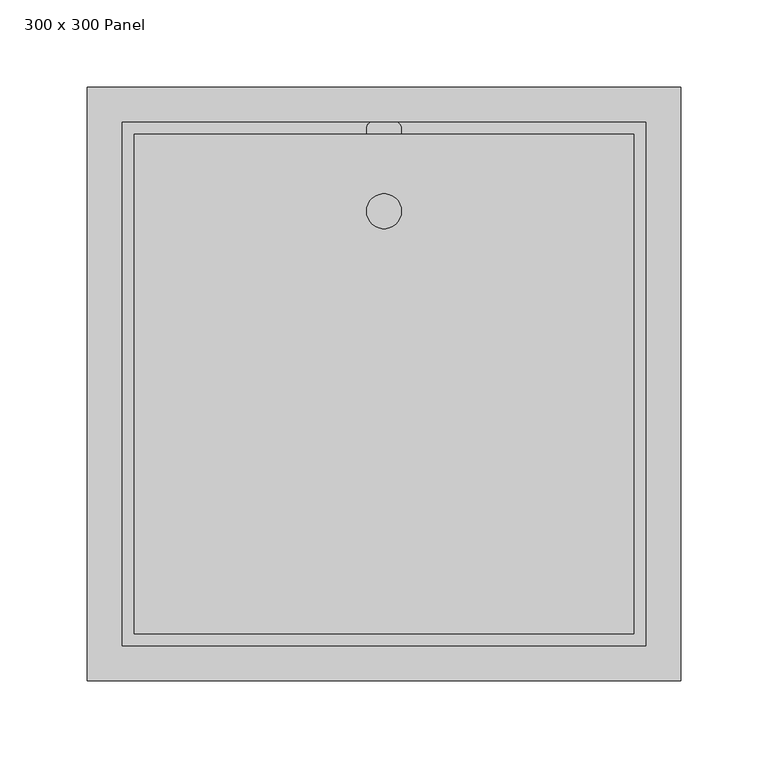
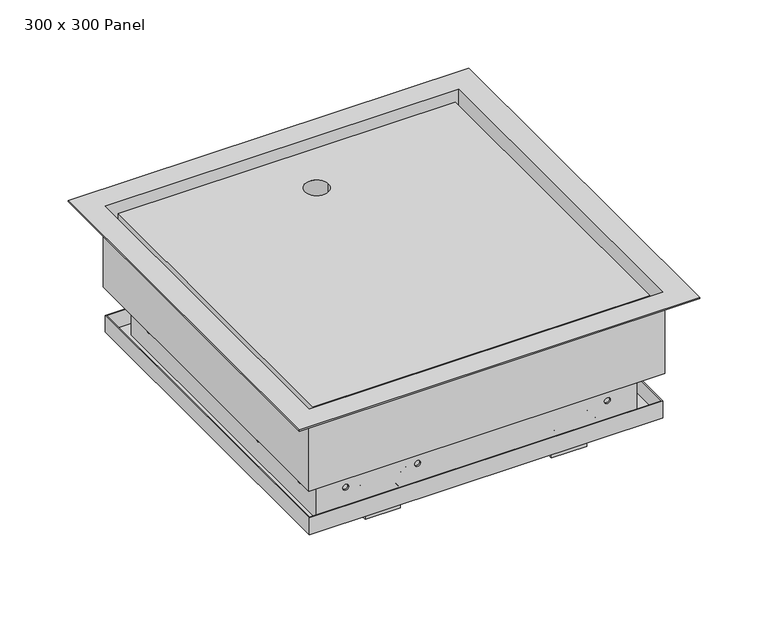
"""IFC4 building model written with IfcOpenShell, lengths in millimetres: proxy geometry, 300 x 300 Fyreshield : 300 x 300 Panel."""

from ifc_helpers import new_model, si_unit, point, frame, frame_2d, origin, place, context, project, spatial, polyline, circle_curve, trimmed, segment, composite_curve, outline, extrude, source, transform, mapped, element, save
from ifc_brep_helpers import plane_surface, revolved_surface, advanced_brep


def proxy_300_x_300_panel_04ea32ab(model_context):
    return source(origin(), model_context, "Body", "SolidModel", [
        extrude(outline(composite_curve([segment(polyline([(119.0, 55.0), (104.0, 55.0)]), True, "CONTINUOUS"), segment(trimmed(circle_curve(frame_2d((79.0, 55.0)), 25.0), [point((104.0, 55.0))], [point((54.0, 55.0))], False, "CARTESIAN"), True, "CONTINUOUS"), segment(polyline([(54.0, 55.0), (39.0, 55.0), (39.0, 75.0), (79.0, 75.0), (119.0, 75.0), (119.0, 55.0)]), True, "CONTINUOUS")], self_intersect=False)), frame((0.0, 0.0, -73.0), z_axis=(0.0, 0.0, 1.0), x_axis=(1.0, 0.0, 0.0)), (0.0, 0.0, 1.0), 2.0),
        extrude(outline(composite_curve([segment(polyline([(-119.0, 55.0), (-119.0, 75.0), (-79.0, 75.0), (-39.0, 75.0), (-39.0, 55.0), (-54.0, 55.0)]), True, "CONTINUOUS"), segment(trimmed(circle_curve(frame_2d((-79.0, 55.0)), 25.0), [point((-54.0, 55.0))], [point((-104.0, 55.0))], False, "CARTESIAN"), True, "CONTINUOUS"), segment(polyline([(-104.0, 55.0), (-119.0, 55.0)]), True, "CONTINUOUS")], self_intersect=False)), frame((0.0, 0.0, -73.0), z_axis=(0.0, 0.0, 1.0), x_axis=(1.0, 0.0, 0.0)), (0.0, 0.0, 1.0), 2.0),
        extrude(outline(composite_curve([segment(trimmed(circle_curve(frame_2d((35.0, -79.3136739)), 5.0), [point((30.0, -79.3136739))], [point((35.0, -74.3136739))], False, "CARTESIAN"), True, "CONTINUOUS"), segment(polyline([(35.0, -74.3136739), (51.5, -72.0), (65.6695499, -72.0), (65.6695499, -77.4449364)]), True, "CONTINUOUS"), segment(trimmed(circle_curve(frame_2d((60.6695499, -77.4449364)), 5.0), [point((65.6695499, -77.4449364))], [point((60.6695499, -82.4449364))], False, "CARTESIAN"), True, "CONTINUOUS"), segment(polyline([(60.6695499, -82.4449364), (42.5, -82.4449364)]), True, "CONTINUOUS"), segment(trimmed(circle_curve(frame_2d((42.5, -84.9449364)), 2.5), [point((42.5, -82.4449364))], [point((40.0, -84.9449364))], True, "CARTESIAN"), True, "CONTINUOUS"), segment(polyline([(40.0, -84.9449364), (40.0, -86.8136739), (30.0, -86.8136739), (30.0, -79.3136739)]), True, "CONTINUOUS")], self_intersect=False)), frame((69.0, 0.0, 0.0), z_axis=(1.0, 0.0, 0.0), x_axis=(0.0, 1.0, 0.0)), (0.0, 0.0, 1.0), 20.0),
        extrude(outline(composite_curve([segment(trimmed(circle_curve(frame_2d((35.0, -79.3136739)), 5.0), [point((30.0, -79.3136739))], [point((35.0, -74.3136739))], False, "CARTESIAN"), True, "CONTINUOUS"), segment(polyline([(35.0, -74.3136739), (51.5, -72.0), (65.6695499, -72.0), (65.6695499, -77.4449364)]), True, "CONTINUOUS"), segment(trimmed(circle_curve(frame_2d((60.6695499, -77.4449364)), 5.0), [point((65.6695499, -77.4449364))], [point((60.6695499, -82.4449364))], False, "CARTESIAN"), True, "CONTINUOUS"), segment(polyline([(60.6695499, -82.4449364), (42.5, -82.4449364)]), True, "CONTINUOUS"), segment(trimmed(circle_curve(frame_2d((42.5, -84.9449364)), 2.5), [point((42.5, -82.4449364))], [point((40.0, -84.9449364))], True, "CARTESIAN"), True, "CONTINUOUS"), segment(polyline([(40.0, -84.9449364), (40.0, -86.8136739), (30.0, -86.8136739), (30.0, -79.3136739)]), True, "CONTINUOUS")], self_intersect=False)), frame((-89.0, 0.0, 0.0), z_axis=(1.0, 0.0, 0.0), x_axis=(0.0, 1.0, 0.0)), (0.0, 0.0, 1.0), 20.0),
        advanced_brep(
        [(93.760434, 15.0, -93.2011546), (93.760434, 20.0, -93.2011546), (98.760434, 20.0, -93.2011546), (98.760434, 15.0, -93.2011546), (98.760434, 15.0, -102.1125194), (98.760434, 20.0, -102.1125194), (98.760434, 20.0, -107.1125194), (98.760434, 15.0, -107.1125194), (93.760434, 20.0, -107.1125194), (93.760434, 15.0, -107.1125194), (93.760434, 20.0, -102.1125194), (93.760434, 15.0, -102.1125194), (64.239566, 15.0, -93.2011546), (64.239566, 20.0, -93.2011546), (59.239566, 20.0, -93.2011546), (59.239566, 15.0, -93.2011546), (59.239566, 15.0, -107.1125194), (59.239566, 20.0, -107.1125194), (59.239566, 20.0, -102.1125194), (59.239566, 15.0, -102.1125194), (64.239566, 15.0, -107.1125194), (64.239566, 20.0, -107.1125194), (64.239566, 15.0, -102.1125194), (64.239566, 20.0, -102.1125194), (89.0, 20.0, -86.8136739), (89.0, 40.0, -86.8136739), (69.0, 40.0, -86.8136739), (69.0, 20.0, -86.8136739), (54.0, 20.0, -86.8136739), (54.0, 15.0, -86.8136739), (104.0, 15.0, -86.8136739), (104.0, 20.0, -86.8136739), (94.0, 20.0, -127.128369), (94.0, 15.0, -127.128369), (64.0, 15.0, -127.128369), (64.0, 20.0, -127.128369), (69.0, 20.0, -127.128369), (69.0, 40.0, -127.128369), (89.0, 40.0, -127.128369), (89.0, 20.0, -127.128369), (94.0, 15.0, -114.5), (96.5, 15.0, -112.0), (104.0, 15.0, -112.0), (54.0, 15.0, -112.0), (61.5, 15.0, -112.0), (64.0, 15.0, -114.5), (64.0, 20.0, -114.5), (61.5, 20.0, -112.0), (54.0, 20.0, -112.0), (104.0, 20.0, -112.0), (96.5, 20.0, -112.0), (94.0, 20.0, -114.5)],
        [
            (0, 1),
            (1, 2, circle_curve(frame((96.260434, 20.0, -93.2011546), z_axis=(0.0, 1.0, 0.0), x_axis=(1.0, 0.0, 0.0)), 2.5)),
            (2, 3),
            (3, 0, circle_curve(frame((96.260434, 15.0, -93.2011546), z_axis=(0.0, -1.0, 0.0), x_axis=(1.0, 0.0, 0.0)), 2.5)),
            (0, 3, circle_curve(frame((96.260434, 15.0, -93.2011546), z_axis=(0.0, -1.0, 0.0), x_axis=(1.0, 0.0, 0.0)), 2.5)),
            (2, 1, circle_curve(frame((96.260434, 20.0, -93.2011546), z_axis=(0.0, 1.0, 0.0), x_axis=(1.0, 0.0, 0.0)), 2.5)),
            (4, 5),
            (5, 6, circle_curve(frame((98.760434, 20.0, -104.6125194), z_axis=(0.0, 1.0, 0.0), x_axis=(1.0, 0.0, 0.0)), 2.5)),
            (6, 7),
            (7, 4, circle_curve(frame((98.760434, 15.0, -104.6125194), z_axis=(0.0, -1.0, 0.0), x_axis=(1.0, 0.0, 0.0)), 2.5)),
            (6, 8),
            (8, 9),
            (9, 7),
            (8, 10, circle_curve(frame((93.760434, 20.0, -104.6125194), z_axis=(0.0, 1.0, 0.0), x_axis=(1.0, 0.0, 0.0)), 2.5)),
            (10, 11),
            (11, 9, circle_curve(frame((93.760434, 15.0, -104.6125194), z_axis=(0.0, -1.0, 0.0), x_axis=(1.0, 0.0, 0.0)), 2.5)),
            (4, 11),
            (10, 5),
            (12, 13),
            (13, 14, circle_curve(frame((61.739566, 20.0, -93.2011546), z_axis=(0.0, 1.0, 0.0), x_axis=(1.0, 0.0, 0.0)), 2.5)),
            (14, 15),
            (15, 12, circle_curve(frame((61.739566, 15.0, -93.2011546), z_axis=(0.0, -1.0, 0.0), x_axis=(1.0, 0.0, 0.0)), 2.5)),
            (12, 15, circle_curve(frame((61.739566, 15.0, -93.2011546), z_axis=(0.0, -1.0, 0.0), x_axis=(1.0, 0.0, 0.0)), 2.5)),
            (14, 13, circle_curve(frame((61.739566, 20.0, -93.2011546), z_axis=(0.0, 1.0, 0.0), x_axis=(1.0, 0.0, 0.0)), 2.5)),
            (16, 17),
            (17, 18, circle_curve(frame((59.239566, 20.0, -104.6125194), z_axis=(0.0, 1.0, 0.0), x_axis=(1.0, 0.0, 0.0)), 2.5)),
            (18, 19),
            (19, 16, circle_curve(frame((59.239566, 15.0, -104.6125194), z_axis=(0.0, -1.0, 0.0), x_axis=(1.0, 0.0, 0.0)), 2.5)),
            (16, 20),
            (20, 21),
            (21, 17),
            (20, 22, circle_curve(frame((64.239566, 15.0, -104.6125194), z_axis=(0.0, -1.0, 0.0), x_axis=(1.0, 0.0, 0.0)), 2.5)),
            (22, 23),
            (23, 21, circle_curve(frame((64.239566, 20.0, -104.6125194), z_axis=(0.0, 1.0, 0.0), x_axis=(1.0, 0.0, 0.0)), 2.5)),
            (18, 23),
            (22, 19),
            (24, 25),
            (25, 26),
            (26, 27),
            (27, 28),
            (28, 29),
            (29, 30),
            (30, 31),
            (31, 24),
            (32, 33),
            (33, 34),
            (34, 35),
            (35, 36),
            (36, 37),
            (37, 38),
            (38, 39),
            (39, 32),
            (33, 40),
            (40, 41, circle_curve(frame((96.5, 15.0, -114.5), z_axis=(0.0, 1.0, 0.0), x_axis=(-1.0, 0.0, 0.0)), 2.5)),
            (41, 42),
            (42, 30),
            (29, 43),
            (43, 44),
            (44, 45, circle_curve(frame((61.5, 15.0, -114.5), z_axis=(0.0, 1.0, 0.0), x_axis=(-1.0, 0.0, 0.0)), 2.5)),
            (45, 34),
            (35, 46),
            (46, 47, circle_curve(frame((61.5, 20.0, -114.5), z_axis=(0.0, -1.0, 0.0), x_axis=(-1.0, 0.0, 0.0)), 2.5)),
            (47, 48),
            (48, 28),
            (27, 36),
            (39, 24),
            (31, 49),
            (49, 50),
            (50, 51, circle_curve(frame((96.5, 20.0, -114.5), z_axis=(0.0, -1.0, 0.0), x_axis=(-1.0, 0.0, 0.0)), 2.5)),
            (51, 32),
            (38, 25),
            (37, 26),
            (45, 46),
            (51, 40),
            (48, 43),
            (44, 47),
            (41, 50),
            (49, 42),
        ],
        [
            revolved_surface(polyline([(98.760434, 15.0, -93.2011546), (98.760434, 20.0, -93.2011546)]), (96.260434, 20.0, -93.2011546), (0.0, -1.0, 0.0)),
            revolved_surface(polyline([(101.260434, 15.0, -104.6125194), (101.260434, 20.0, -104.6125194)]), (98.760434, 20.0, -104.6125194), (0.0, -1.0, 0.0)),
            plane_surface(frame((93.760434, 15.0, -107.1125194), z_axis=(0.0, 0.0, 1.0), x_axis=(0.0, 1.0, 0.0))),
            revolved_surface(polyline([(96.260434, 15.0, -104.6125194), (96.260434, 20.0, -104.6125194)]), (93.760434, 20.0, -104.6125194), (0.0, -1.0, 0.0)),
            plane_surface(frame((98.760434, 15.0, -102.1125194), z_axis=(0.0, 0.0, -1.0), x_axis=(0.0, 1.0, 0.0))),
            revolved_surface(polyline([(64.239566, 15.0, -93.2011546), (64.239566, 20.0, -93.2011546)]), (61.739566, 20.0, -93.2011546), (0.0, -1.0, 0.0)),
            revolved_surface(polyline([(61.739566, 15.0, -104.6125194), (61.739566, 20.0, -104.6125194)]), (59.239566, 20.0, -104.6125194), (0.0, -1.0, 0.0)),
            plane_surface(frame((59.239566, 15.0, -107.1125194), z_axis=(0.0, 0.0, 1.0), x_axis=(0.0, 1.0, 0.0))),
            revolved_surface(polyline([(66.739566, 15.0, -104.6125194), (66.739566, 20.0, -104.6125194)]), (64.239566, 20.0, -104.6125194), (0.0, -1.0, 0.0)),
            plane_surface(frame((64.239566, 15.0, -102.1125194), z_axis=(0.0, 0.0, -1.0), x_axis=(0.0, 1.0, 0.0))),
            plane_surface(frame((-94.0, 15.0, -86.8136739), z_axis=(0.0, 0.0, 1.0), x_axis=(0.0, -1.0, 0.0))),
            plane_surface(frame((-94.0, 15.0, -127.128369), z_axis=(0.0, 0.0, -1.0), x_axis=(0.0, 1.0, 0.0))),
            plane_surface(frame((-94.0, 15.0, -86.8136739), z_axis=(0.0, -1.0, 0.0), x_axis=(0.0, 0.0, -1.0))),
            plane_surface(frame((-64.0, 20.0, -86.8136739), z_axis=(0.0, 1.0, 0.0), x_axis=(0.0, 0.0, -1.0))),
            plane_surface(frame((89.0, 20.0, -86.8136739), z_axis=(1.0, 0.0, 0.0), x_axis=(0.0, 0.0, -1.0))),
            plane_surface(frame((89.0, 40.0, -86.8136739), z_axis=(0.0, 1.0, 0.0), x_axis=(0.0, 0.0, -1.0))),
            plane_surface(frame((69.0, 40.0, -86.8136739), z_axis=(-1.0, 0.0, 0.0), x_axis=(0.0, 0.0, -1.0))),
            plane_surface(frame((64.0, 20.0, -86.8136739), z_axis=(-1.0, 0.0, 0.0), x_axis=(0.0, 0.0, -1.0))),
            plane_surface(frame((94.0, 15.0, -86.8136739), z_axis=(1.0, 0.0, 0.0), x_axis=(0.0, 0.0, -1.0))),
            plane_surface(frame((54.0, 20.0, -112.0), z_axis=(-1.0, 0.0, 0.0), x_axis=(0.0, -1.0, 0.0))),
            revolved_surface(polyline([(59.0, 15.0, -114.5), (59.0, 20.0, -114.5)]), (61.5, 15.0, -114.5), (0.0, -1.0, 0.0)),
            plane_surface(frame((61.5, 20.0, -112.0), z_axis=(0.0, 0.0, -1.0), x_axis=(0.0, -1.0, 0.0))),
            plane_surface(frame((104.0, 20.0, -112.0), z_axis=(0.0, 0.0, -1.0), x_axis=(0.0, -1.0, 0.0))),
            revolved_surface(polyline([(94.0, 15.0, -114.5), (94.0, 20.0, -114.5)]), (96.5, 20.0, -114.5), (0.0, -1.0, 0.0)),
            plane_surface(frame((104.0, 20.0, -86.8136739), z_axis=(1.0, 0.0, 0.0), x_axis=(0.0, -1.0, 0.0))),
        ],
        [
            (0, [[1, 2, 3, 4]]),
            (0, [[-1, 5, -3, 6]]),
            (1, [[7, 8, 9, 10]]),
            (2, [[-9, 11, 12, 13]]),
            (3, [[-12, 14, 15, 16]]),
            (4, [[-7, 17, -15, 18]]),
            (5, [[19, 20, 21, 22]]),
            (5, [[-19, 23, -21, 24]]),
            (6, [[25, 26, 27, 28]]),
            (7, [[-25, 29, 30, 31]]),
            (8, [[-30, 32, 33, 34]]),
            (9, [[-27, 35, -33, 36]]),
            (10, [[37, 38, 39, 40, 41, 42, 43, 44]]),
            (11, [[45, 46, 47, 48, 49, 50, 51, 52]]),
            (12, [[-46, 53, 54, 55, 56, -42, 57, 58, 59, 60], [-4, -5], [-10, -13, -16, -17], [-22, -23], [-28, -36, -32, -29]]),
            (13, [[-48, 61, 62, 63, 64, -40, 65], [-20, -24], [-26, -31, -34, -35]]),
            (13, [[-52, 66, -44, 67, 68, 69, 70], [-2, -6], [-8, -18, -14, -11]]),
            (14, [[-37, -66, -51, 71]]),
            (15, [[-38, -71, -50, 72]]),
            (16, [[-39, -72, -49, -65]]),
            (17, [[-47, -60, 73, -61]]),
            (18, [[-45, -70, 74, -53]]),
            (19, [[-57, -41, -64, 75]]),
            (20, [[-59, 76, -62, -73]]),
            (21, [[-58, -75, -63, -76]]),
            (22, [[-55, 77, -68, 78]]),
            (23, [[-54, -74, -69, -77]]),
            (24, [[-56, -78, -67, -43]]),
        ],
    ),
        advanced_brep(
        [(-69.0, 20.0, -86.8136739), (-69.0, 40.0, -86.8136739), (-89.0, 40.0, -86.8136739), (-89.0, 20.0, -86.8136739), (-104.0, 20.0, -86.8136739), (-104.0, 15.0, -86.8136739), (-54.0, 15.0, -86.8136739), (-54.0, 20.0, -86.8136739), (-94.0, 20.0, -127.128369), (-89.0, 20.0, -127.128369), (-89.0, 40.0, -127.128369), (-69.0, 40.0, -127.128369), (-69.0, 20.0, -127.128369), (-64.0, 20.0, -127.128369), (-64.0, 15.0, -127.128369), (-94.0, 15.0, -127.128369), (-94.0, 15.0, -114.5), (-94.0, 20.0, -114.5), (-64.0, 15.0, -114.5), (-61.5, 15.0, -112.0), (-54.0, 15.0, -112.0), (-104.0, 15.0, -112.0), (-96.5, 15.0, -112.0), (-59.239566, 15.0, -93.2011546), (-64.239566, 15.0, -93.2011546), (-64.239566, 15.0, -102.1125194), (-59.239566, 15.0, -102.1125194), (-59.239566, 15.0, -107.1125194), (-64.239566, 15.0, -107.1125194), (-93.760434, 15.0, -93.2011546), (-98.760434, 15.0, -93.2011546), (-98.760434, 15.0, -107.1125194), (-98.760434, 15.0, -102.1125194), (-93.760434, 15.0, -102.1125194), (-93.760434, 15.0, -107.1125194), (-64.0, 20.0, -114.5), (-96.5, 20.0, -112.0), (-104.0, 20.0, -112.0), (-98.760434, 20.0, -93.2011546), (-93.760434, 20.0, -93.2011546), (-98.760434, 20.0, -102.1125194), (-98.760434, 20.0, -107.1125194), (-93.760434, 20.0, -107.1125194), (-93.760434, 20.0, -102.1125194), (-54.0, 20.0, -112.0), (-61.5, 20.0, -112.0), (-64.239566, 20.0, -93.2011546), (-59.239566, 20.0, -93.2011546), (-59.239566, 20.0, -102.1125194), (-64.239566, 20.0, -102.1125194), (-64.239566, 20.0, -107.1125194), (-59.239566, 20.0, -107.1125194)],
        [
            (0, 1),
            (1, 2),
            (2, 3),
            (3, 4),
            (4, 5),
            (5, 6),
            (6, 7),
            (7, 0),
            (8, 9),
            (9, 10),
            (10, 11),
            (11, 12),
            (12, 13),
            (13, 14),
            (14, 15),
            (15, 8),
            (15, 16),
            (16, 17),
            (17, 8),
            (14, 18),
            (18, 19, circle_curve(frame((-61.5, 15.0, -114.5), z_axis=(0.0, 1.0, 0.0), x_axis=(-1.0, 0.0, 0.0)), 2.5)),
            (19, 20),
            (20, 6),
            (5, 21),
            (21, 22),
            (22, 16, circle_curve(frame((-96.5, 15.0, -114.5), z_axis=(0.0, 1.0, 0.0), x_axis=(-1.0, 0.0, 0.0)), 2.5)),
            (23, 24, circle_curve(frame((-61.739566, 15.0, -93.2011546), z_axis=(0.0, 1.0, 0.0), x_axis=(1.0, 0.0, 0.0)), 2.5)),
            (24, 23, circle_curve(frame((-61.739566, 15.0, -93.2011546), z_axis=(0.0, 1.0, 0.0), x_axis=(1.0, 0.0, 0.0)), 2.5)),
            (25, 26),
            (26, 27, circle_curve(frame((-59.239566, 15.0, -104.6125194), z_axis=(0.0, 1.0, 0.0), x_axis=(1.0, 0.0, 0.0)), 2.5)),
            (27, 28),
            (28, 25, circle_curve(frame((-64.239566, 15.0, -104.6125194), z_axis=(0.0, 1.0, 0.0), x_axis=(1.0, 0.0, 0.0)), 2.5)),
            (29, 30, circle_curve(frame((-96.260434, 15.0, -93.2011546), z_axis=(0.0, 1.0, 0.0), x_axis=(1.0, 0.0, 0.0)), 2.5)),
            (30, 29, circle_curve(frame((-96.260434, 15.0, -93.2011546), z_axis=(0.0, 1.0, 0.0), x_axis=(1.0, 0.0, 0.0)), 2.5)),
            (31, 32, circle_curve(frame((-98.760434, 15.0, -104.6125194), z_axis=(0.0, 1.0, 0.0), x_axis=(1.0, 0.0, 0.0)), 2.5)),
            (32, 33),
            (33, 34, circle_curve(frame((-93.760434, 15.0, -104.6125194), z_axis=(0.0, 1.0, 0.0), x_axis=(1.0, 0.0, 0.0)), 2.5)),
            (34, 31),
            (13, 35),
            (35, 18),
            (17, 36, circle_curve(frame((-96.5, 20.0, -114.5), z_axis=(0.0, -1.0, 0.0), x_axis=(-1.0, 0.0, 0.0)), 2.5)),
            (36, 37),
            (37, 4),
            (3, 9),
            (38, 39, circle_curve(frame((-96.260434, 20.0, -93.2011546), z_axis=(0.0, -1.0, 0.0), x_axis=(1.0, 0.0, 0.0)), 2.5)),
            (39, 38, circle_curve(frame((-96.260434, 20.0, -93.2011546), z_axis=(0.0, -1.0, 0.0), x_axis=(1.0, 0.0, 0.0)), 2.5)),
            (40, 41, circle_curve(frame((-98.760434, 20.0, -104.6125194), z_axis=(0.0, -1.0, 0.0), x_axis=(1.0, 0.0, 0.0)), 2.5)),
            (41, 42),
            (42, 43, circle_curve(frame((-93.760434, 20.0, -104.6125194), z_axis=(0.0, -1.0, 0.0), x_axis=(1.0, 0.0, 0.0)), 2.5)),
            (43, 40),
            (12, 0),
            (7, 44),
            (44, 45),
            (45, 35, circle_curve(frame((-61.5, 20.0, -114.5), z_axis=(0.0, -1.0, 0.0), x_axis=(-1.0, 0.0, 0.0)), 2.5)),
            (46, 47, circle_curve(frame((-61.739566, 20.0, -93.2011546), z_axis=(0.0, -1.0, 0.0), x_axis=(1.0, 0.0, 0.0)), 2.5)),
            (47, 46, circle_curve(frame((-61.739566, 20.0, -93.2011546), z_axis=(0.0, -1.0, 0.0), x_axis=(1.0, 0.0, 0.0)), 2.5)),
            (48, 49),
            (49, 50, circle_curve(frame((-64.239566, 20.0, -104.6125194), z_axis=(0.0, -1.0, 0.0), x_axis=(1.0, 0.0, 0.0)), 2.5)),
            (50, 51),
            (51, 48, circle_curve(frame((-59.239566, 20.0, -104.6125194), z_axis=(0.0, -1.0, 0.0), x_axis=(1.0, 0.0, 0.0)), 2.5)),
            (11, 1),
            (10, 2),
            (23, 47),
            (46, 24),
            (25, 49),
            (48, 26),
            (28, 50),
            (27, 51),
            (29, 39),
            (38, 30),
            (31, 41),
            (40, 32),
            (34, 42),
            (33, 43),
            (37, 21),
            (22, 36),
            (19, 45),
            (44, 20),
        ],
        [
            plane_surface(frame((-94.0, 15.0, -86.8136739), z_axis=(0.0, 0.0, 1.0), x_axis=(0.0, -1.0, 0.0))),
            plane_surface(frame((-94.0, 15.0, -127.128369), z_axis=(0.0, 0.0, -1.0), x_axis=(0.0, 1.0, 0.0))),
            plane_surface(frame((-94.0, 20.0, -86.8136739), z_axis=(-1.0, 0.0, 0.0), x_axis=(0.0, 0.0, -1.0))),
            plane_surface(frame((-94.0, 15.0, -86.8136739), z_axis=(0.0, -1.0, 0.0), x_axis=(0.0, 0.0, -1.0))),
            plane_surface(frame((-64.0, 15.0, -86.8136739), z_axis=(1.0, 0.0, 0.0), x_axis=(0.0, 0.0, -1.0))),
            plane_surface(frame((-64.0, 20.0, -86.8136739), z_axis=(0.0, 1.0, 0.0), x_axis=(0.0, 0.0, -1.0))),
            plane_surface(frame((-69.0, 20.0, -86.8136739), z_axis=(1.0, 0.0, 0.0), x_axis=(0.0, 0.0, -1.0))),
            plane_surface(frame((-69.0, 40.0, -86.8136739), z_axis=(0.0, 1.0, 0.0), x_axis=(0.0, 0.0, -1.0))),
            plane_surface(frame((-89.0, 40.0, -86.8136739), z_axis=(-1.0, 0.0, 0.0), x_axis=(0.0, 0.0, -1.0))),
            revolved_surface(polyline([(-59.239566, 15.0, -93.2011546), (-59.239566, 20.0, -93.2011546)]), (-61.739566, 20.0, -93.2011546), (0.0, -1.0, 0.0)),
            plane_surface(frame((-59.239566, 15.0, -102.1125194), z_axis=(0.0, 0.0, -1.0), x_axis=(0.0, 1.0, 0.0))),
            revolved_surface(polyline([(-61.739565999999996, 15.0, -104.6125194), (-61.739565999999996, 20.0, -104.6125194)]), (-64.239566, 20.0, -104.6125194), (0.0, -1.0, 0.0)),
            plane_surface(frame((-64.239566, 15.0, -107.1125194), z_axis=(0.0, 0.0, 1.0), x_axis=(0.0, 1.0, 0.0))),
            revolved_surface(polyline([(-56.739566, 15.0, -104.6125194), (-56.739566, 20.0, -104.6125194)]), (-59.239566, 20.0, -104.6125194), (0.0, -1.0, 0.0)),
            revolved_surface(polyline([(-93.760434, 15.0, -93.2011546), (-93.760434, 20.0, -93.2011546)]), (-96.260434, 20.0, -93.2011546), (0.0, -1.0, 0.0)),
            revolved_surface(polyline([(-96.260434, 15.0, -104.6125194), (-96.260434, 20.0, -104.6125194)]), (-98.760434, 20.0, -104.6125194), (0.0, -1.0, 0.0)),
            plane_surface(frame((-98.760434, 15.0, -107.1125194), z_axis=(0.0, 0.0, 1.0), x_axis=(0.0, 1.0, 0.0))),
            revolved_surface(polyline([(-91.260434, 15.0, -104.6125194), (-91.260434, 20.0, -104.6125194)]), (-93.760434, 20.0, -104.6125194), (0.0, -1.0, 0.0)),
            plane_surface(frame((-93.760434, 15.0, -102.1125194), z_axis=(0.0, 0.0, -1.0), x_axis=(0.0, 1.0, 0.0))),
            plane_surface(frame((-104.0, 20.0, -112.0), z_axis=(-1.0, 0.0, 0.0), x_axis=(0.0, -1.0, 0.0))),
            revolved_surface(polyline([(-99.0, 15.0, -114.5), (-99.0, 20.0, -114.5)]), (-96.5, 20.0, -114.5), (0.0, -1.0, 0.0)),
            plane_surface(frame((-96.5, 20.0, -112.0), z_axis=(0.0, 0.0, -1.0), x_axis=(0.0, -1.0, 0.0))),
            plane_surface(frame((-54.0, 20.0, -112.0), z_axis=(0.0, 0.0, -1.0), x_axis=(0.0, -1.0, 0.0))),
            revolved_surface(polyline([(-64.0, 15.0, -114.5), (-64.0, 20.0, -114.5)]), (-61.5, 20.0, -114.5), (0.0, -1.0, 0.0)),
            plane_surface(frame((-54.0, 20.0, -86.8136739), z_axis=(1.0, 0.0, 0.0), x_axis=(0.0, -1.0, 0.0))),
        ],
        [
            (0, [[1, 2, 3, 4, 5, 6, 7, 8]]),
            (1, [[9, 10, 11, 12, 13, 14, 15, 16]]),
            (2, [[-16, 17, 18, 19]]),
            (3, [[-15, 20, 21, 22, 23, -6, 24, 25, 26, -17], [27, 28], [29, 30, 31, 32], [33, 34], [35, 36, 37, 38]]),
            (4, [[-14, 39, 40, -20]]),
            (5, [[-9, -19, 41, 42, 43, -4, 44], [45, 46], [47, 48, 49, 50]]),
            (5, [[-13, 51, -8, 52, 53, 54, -39], [55, 56], [57, 58, 59, 60]]),
            (6, [[-1, -51, -12, 61]]),
            (7, [[-2, -61, -11, 62]]),
            (8, [[-3, -62, -10, -44]]),
            (9, [[63, -55, 64, -27]]),
            (9, [[-63, -28, -64, -56]]),
            (10, [[65, -57, 66, -29]]),
            (11, [[-65, -32, 67, -58]]),
            (12, [[-67, -31, 68, -59]]),
            (13, [[-66, -60, -68, -30]]),
            (14, [[69, -45, 70, -33]]),
            (14, [[-69, -34, -70, -46]]),
            (15, [[71, -47, 72, -35]]),
            (16, [[-71, -38, 73, -48]]),
            (17, [[-73, -37, 74, -49]]),
            (18, [[-72, -50, -74, -36]]),
            (19, [[-24, -5, -43, 75]]),
            (20, [[-26, 76, -41, -18]]),
            (21, [[-25, -75, -42, -76]]),
            (22, [[-22, 77, -53, 78]]),
            (23, [[-21, -40, -54, -77]]),
            (24, [[-23, -78, -52, -7]]),
        ],
    ),
        extrude(outline(composite_curve([segment(polyline([(129.0, 279.0), (129.0, 21.0), (99.0, 21.0), (99.0, 41.0)]), True, "CONTINUOUS"), segment(trimmed(circle_curve(frame_2d((79.0, 41.0)), 20.0), [point((99.0, 41.0))], [point((59.0, 41.0))], True, "CARTESIAN"), True, "CONTINUOUS"), segment(polyline([(59.0, 41.0), (59.0, 21.0), (-59.0, 21.0), (-59.0, 41.0)]), True, "CONTINUOUS"), segment(trimmed(circle_curve(frame_2d((-79.0, 41.0)), 20.0), [point((-59.0, 41.0))], [point((-99.0, 41.0))], True, "CARTESIAN"), True, "CONTINUOUS"), segment(polyline([(-99.0, 41.0), (-99.0, 21.0), (-129.0, 21.0), (-129.0, 279.0), (129.0, 279.0)]), True, "CONTINUOUS")], self_intersect=False)), frame((0.0, 0.0, -107.2487382), z_axis=(0.0, 0.0, 1.0), x_axis=(1.0, 0.0, 0.0)), (0.0, 0.0, 1.0), 36.2487382),
        extrude(outline(polyline([(143.0, 293.0), (143.0, 7.0), (-143.0, 7.0), (-143.0, 293.0), (143.0, 293.0)]), holes=[composite_curve([segment(trimmed(circle_curve(frame_2d((0.0, 249.0)), 10.0), [point((-10.0, 249.0))], [point((10.0, 249.0))], True, "CARTESIAN"), True, "CONTINUOUS"), segment(trimmed(circle_curve(frame_2d((0.0, 249.0)), 10.0), [point((10.0, 249.0))], [point((-10.0, 249.0))], True, "CARTESIAN"), True, "CONTINUOUS")], self_intersect=False)]), frame((0.0, 0.0, -71.0), z_axis=(0.0, 0.0, 1.0), x_axis=(1.0, 0.0, 0.0)), (0.0, 0.0, 1.0), 67.0),
        extrude(outline(composite_curve([segment(polyline([(10.0, 279.0), (-10.0, 279.0), (-10.0, 296.0)]), True, "CONTINUOUS"), segment(trimmed(circle_curve(frame_2d((-5.0, 296.0)), 5.0), [point((-10.0, 296.0))], [point((-5.0, 301.0))], False, "CARTESIAN"), True, "CONTINUOUS"), segment(polyline([(-5.0, 301.0), (5.0, 301.0)]), True, "CONTINUOUS"), segment(trimmed(circle_curve(frame_2d((5.0, 296.0)), 5.0), [point((5.0, 301.0))], [point((10.0, 296.0))], False, "CARTESIAN"), True, "CONTINUOUS"), segment(polyline([(10.0, 296.0), (10.0, 279.0)]), True, "CONTINUOUS")], self_intersect=False)), frame((0.0, 0.0, -49.5), z_axis=(0.0, 0.0, 1.0), x_axis=(1.0, 0.0, 0.0)), (0.0, 0.0, 1.0), 5.0),
        advanced_brep(
        [(170.0, 320.0, 0.0), (170.0, 320.0, 1.0), (170.0, -20.0, 1.0), (170.0, -20.0, 0.0), (151.0, 301.0, -72.0), (151.0, 301.0, 0.0), (151.0, -1.0, 0.0), (151.0, -1.0, -72.0), (136.0, 286.0, -111.0), (136.0, 286.0, -72.0), (136.0, 14.0, -72.0), (136.0, 14.0, -111.0), (136.0, 36.5, -91.5), (136.0, 41.5, -91.5), (136.0, 97.5, -91.5), (136.0, 102.5, -91.5), (136.0, 258.5, -91.5), (136.0, 263.5, -91.5), (149.0, 299.0, -97.0), (149.0, 299.0, -111.0), (149.0, 1.0, -111.0), (149.0, 1.0, -97.0), (150.0, 300.0, -112.0), (150.0, 300.0, -97.0), (150.0, 0.0, -97.0), (150.0, 0.0, -112.0), (135.0, 285.0, -71.0), (135.0, 285.0, -112.0), (135.0, 15.0, -112.0), (135.0, 15.0, -71.0), (135.0, 41.5, -91.5), (135.0, 36.5, -91.5), (135.0, 102.5, -91.5), (135.0, 97.5, -91.5), (135.0, 263.5, -91.5), (135.0, 258.5, -91.5), (150.0, 300.0, 1.0), (150.0, 300.0, -71.0), (150.0, 0.0, -71.0), (150.0, 0.0, 1.0), (-170.0, -20.0, 1.0), (-170.0, -20.0, 0.0), (-151.0, -1.0, 0.0), (-151.0, -1.0, -72.0), (-136.0, 14.0, -72.0), (-136.0, 14.0, -111.0), (-113.5, 14.0, -91.5), (-108.5, 14.0, -91.5), (-52.5, 14.0, -91.5), (-47.5, 14.0, -91.5), (108.5, 14.0, -91.5), (113.5, 14.0, -91.5), (-149.0, 1.0, -111.0), (-149.0, 1.0, -97.0), (-150.0, 0.0, -97.0), (-150.0, 0.0, -112.0), (-135.0, 15.0, -112.0), (-135.0, 15.0, -71.0), (-108.5, 15.0, -91.5), (-113.5, 15.0, -91.5), (-47.5, 15.0, -91.5), (-52.5, 15.0, -91.5), (113.5, 15.0, -91.5), (108.5, 15.0, -91.5), (-150.0, 0.0, -71.0), (-150.0, 0.0, 1.0), (-170.0, 320.0, 1.0), (-170.0, 320.0, 0.0), (-151.0, 301.0, 0.0), (-151.0, 301.0, -72.0), (-136.0, 286.0, -72.0), (-136.0, 286.0, -111.0), (-136.0, 263.5, -91.5), (-136.0, 258.5, -91.5), (-136.0, 41.5, -91.5), (-136.0, 36.5, -91.5), (-136.0, 102.5, -91.5), (-136.0, 97.5, -91.5), (-149.0, 299.0, -111.0), (-149.0, 299.0, -97.0), (-150.0, 300.0, -97.0), (-150.0, 300.0, -112.0), (-135.0, 285.0, -112.0), (-135.0, 285.0, -71.0), (-135.0, 258.5, -91.5), (-135.0, 263.5, -91.5), (-135.0, 36.5, -91.5), (-135.0, 41.5, -91.5), (-135.0, 97.5, -91.5), (-135.0, 102.5, -91.5), (-150.0, 300.0, -71.0), (-150.0, 300.0, 1.0), (30.9960275, 286.0, -72.0), (30.9960275, 285.0, -72.0), (-30.9960275, 285.0, -72.0), (-30.9960275, 286.0, -72.0), (-30.9960275, 286.0, -82.0), (30.9960275, 286.0, -82.0), (113.5, 286.0, -91.5), (108.5, 286.0, -91.5), (-108.5, 286.0, -91.5), (-113.5, 286.0, -91.5), (-47.5, 286.0, -91.5), (-52.5, 286.0, -91.5), (108.5, 285.0, -91.5), (113.5, 285.0, -91.5), (-113.5, 285.0, -91.5), (-108.5, 285.0, -91.5), (-52.5, 285.0, -91.5), (-47.5, 285.0, -91.5), (30.9960275, 285.0, -82.0), (-30.9960275, 285.0, -82.0)],
        [
            (0, 1),
            (1, 2),
            (2, 3),
            (3, 0),
            (4, 5),
            (5, 6),
            (6, 7),
            (7, 4),
            (8, 9),
            (9, 10),
            (10, 11),
            (11, 8),
            (12, 13, circle_curve(frame((136.0, 39.0, -91.5), z_axis=(-1.0, 0.0, 0.0), x_axis=(0.0, -1.0, 0.0)), 2.5)),
            (13, 12, circle_curve(frame((136.0, 39.0, -91.5), z_axis=(-1.0, 0.0, 0.0), x_axis=(0.0, -1.0, 0.0)), 2.5)),
            (14, 15, circle_curve(frame((136.0, 100.0, -91.5), z_axis=(-1.0, 0.0, 0.0), x_axis=(0.0, -1.0, 0.0)), 2.5)),
            (15, 14, circle_curve(frame((136.0, 100.0, -91.5), z_axis=(-1.0, 0.0, 0.0), x_axis=(0.0, -1.0, 0.0)), 2.5)),
            (16, 17, circle_curve(frame((136.0, 261.0, -91.5), z_axis=(-1.0, 0.0, 0.0), x_axis=(0.0, -1.0, 0.0)), 2.5)),
            (17, 16, circle_curve(frame((136.0, 261.0, -91.5), z_axis=(-1.0, 0.0, 0.0), x_axis=(0.0, -1.0, 0.0)), 2.5)),
            (18, 19),
            (19, 20),
            (20, 21),
            (21, 18),
            (22, 23),
            (23, 24),
            (24, 25),
            (25, 22),
            (26, 27),
            (27, 28),
            (28, 29),
            (29, 26),
            (30, 31, circle_curve(frame((135.0, 39.0, -91.5), z_axis=(1.0, 0.0, 0.0), x_axis=(0.0, -1.0, 0.0)), 2.5)),
            (31, 30, circle_curve(frame((135.0, 39.0, -91.5), z_axis=(1.0, 0.0, 0.0), x_axis=(0.0, -1.0, 0.0)), 2.5)),
            (32, 33, circle_curve(frame((135.0, 100.0, -91.5), z_axis=(1.0, 0.0, 0.0), x_axis=(0.0, -1.0, 0.0)), 2.5)),
            (33, 32, circle_curve(frame((135.0, 100.0, -91.5), z_axis=(1.0, 0.0, 0.0), x_axis=(0.0, -1.0, 0.0)), 2.5)),
            (34, 35, circle_curve(frame((135.0, 261.0, -91.5), z_axis=(1.0, 0.0, 0.0), x_axis=(0.0, -1.0, 0.0)), 2.5)),
            (35, 34, circle_curve(frame((135.0, 261.0, -91.5), z_axis=(1.0, 0.0, 0.0), x_axis=(0.0, -1.0, 0.0)), 2.5)),
            (36, 37),
            (37, 38),
            (38, 39),
            (39, 36),
            (2, 40),
            (40, 41),
            (41, 3),
            (6, 42),
            (42, 43),
            (43, 7),
            (10, 44),
            (44, 45),
            (45, 11),
            (46, 47, circle_curve(frame((-111.0, 14.0, -91.5), z_axis=(0.0, 1.0, 0.0), x_axis=(-1.0, 0.0, 0.0)), 2.5)),
            (47, 46, circle_curve(frame((-111.0, 14.0, -91.5), z_axis=(0.0, 1.0, 0.0), x_axis=(-1.0, 0.0, 0.0)), 2.5)),
            (48, 49, circle_curve(frame((-50.0, 14.0, -91.5), z_axis=(0.0, 1.0, 0.0), x_axis=(-1.0, 0.0, 0.0)), 2.5)),
            (49, 48, circle_curve(frame((-50.0, 14.0, -91.5), z_axis=(0.0, 1.0, 0.0), x_axis=(-1.0, 0.0, 0.0)), 2.5)),
            (50, 51, circle_curve(frame((111.0, 14.0, -91.5), z_axis=(0.0, 1.0, 0.0), x_axis=(-1.0, 0.0, 0.0)), 2.5)),
            (51, 50, circle_curve(frame((111.0, 14.0, -91.5), z_axis=(0.0, 1.0, 0.0), x_axis=(-1.0, 0.0, 0.0)), 2.5)),
            (20, 52),
            (52, 53),
            (53, 21),
            (24, 54),
            (54, 55),
            (55, 25),
            (28, 56),
            (56, 57),
            (57, 29),
            (58, 59, circle_curve(frame((-111.0, 15.0, -91.5), z_axis=(0.0, -1.0, 0.0), x_axis=(-1.0, 0.0, 0.0)), 2.5)),
            (59, 58, circle_curve(frame((-111.0, 15.0, -91.5), z_axis=(0.0, -1.0, 0.0), x_axis=(-1.0, 0.0, 0.0)), 2.5)),
            (60, 61, circle_curve(frame((-50.0, 15.0, -91.5), z_axis=(0.0, -1.0, 0.0), x_axis=(-1.0, 0.0, 0.0)), 2.5)),
            (61, 60, circle_curve(frame((-50.0, 15.0, -91.5), z_axis=(0.0, -1.0, 0.0), x_axis=(-1.0, 0.0, 0.0)), 2.5)),
            (62, 63, circle_curve(frame((111.0, 15.0, -91.5), z_axis=(0.0, -1.0, 0.0), x_axis=(-1.0, 0.0, 0.0)), 2.5)),
            (63, 62, circle_curve(frame((111.0, 15.0, -91.5), z_axis=(0.0, -1.0, 0.0), x_axis=(-1.0, 0.0, 0.0)), 2.5)),
            (38, 64),
            (64, 65),
            (65, 39),
            (40, 66),
            (66, 67),
            (67, 41),
            (42, 68),
            (68, 69),
            (69, 43),
            (44, 70),
            (70, 71),
            (71, 45),
            (72, 73, circle_curve(frame((-136.0, 261.0, -91.5), z_axis=(1.0, 0.0, 0.0), x_axis=(0.0, 1.0, 0.0)), 2.5)),
            (73, 72, circle_curve(frame((-136.0, 261.0, -91.5), z_axis=(1.0, 0.0, 0.0), x_axis=(0.0, 1.0, 0.0)), 2.5)),
            (74, 75, circle_curve(frame((-136.0, 39.0, -91.5), z_axis=(1.0, 0.0, 0.0), x_axis=(0.0, 1.0, 0.0)), 2.5)),
            (75, 74, circle_curve(frame((-136.0, 39.0, -91.5), z_axis=(1.0, 0.0, 0.0), x_axis=(0.0, 1.0, 0.0)), 2.5)),
            (76, 77, circle_curve(frame((-136.0, 100.0, -91.5), z_axis=(1.0, 0.0, 0.0), x_axis=(0.0, 1.0, 0.0)), 2.5)),
            (77, 76, circle_curve(frame((-136.0, 100.0, -91.5), z_axis=(1.0, 0.0, 0.0), x_axis=(0.0, 1.0, 0.0)), 2.5)),
            (52, 78),
            (78, 79),
            (79, 53),
            (54, 80),
            (80, 81),
            (81, 55),
            (56, 82),
            (82, 83),
            (83, 57),
            (84, 85, circle_curve(frame((-135.0, 261.0, -91.5), z_axis=(-1.0, 0.0, 0.0), x_axis=(0.0, 1.0, 0.0)), 2.5)),
            (85, 84, circle_curve(frame((-135.0, 261.0, -91.5), z_axis=(-1.0, 0.0, 0.0), x_axis=(0.0, 1.0, 0.0)), 2.5)),
            (86, 87, circle_curve(frame((-135.0, 39.0, -91.5), z_axis=(-1.0, 0.0, 0.0), x_axis=(0.0, 1.0, 0.0)), 2.5)),
            (87, 86, circle_curve(frame((-135.0, 39.0, -91.5), z_axis=(-1.0, 0.0, 0.0), x_axis=(0.0, 1.0, 0.0)), 2.5)),
            (88, 89, circle_curve(frame((-135.0, 100.0, -91.5), z_axis=(-1.0, 0.0, 0.0), x_axis=(0.0, 1.0, 0.0)), 2.5)),
            (89, 88, circle_curve(frame((-135.0, 100.0, -91.5), z_axis=(-1.0, 0.0, 0.0), x_axis=(0.0, 1.0, 0.0)), 2.5)),
            (64, 90),
            (90, 91),
            (91, 65),
            (0, 67),
            (66, 1),
            (5, 68),
            (4, 69),
            (9, 92),
            (92, 93),
            (93, 94),
            (94, 95),
            (95, 70),
            (8, 71),
            (95, 96),
            (96, 97),
            (97, 92),
            (98, 99, circle_curve(frame((111.0, 286.0, -91.5), z_axis=(0.0, -1.0, 0.0), x_axis=(1.0, 0.0, 0.0)), 2.5)),
            (99, 98, circle_curve(frame((111.0, 286.0, -91.5), z_axis=(0.0, -1.0, 0.0), x_axis=(1.0, 0.0, 0.0)), 2.5)),
            (100, 101, circle_curve(frame((-111.0, 286.0, -91.5), z_axis=(0.0, -1.0, 0.0), x_axis=(1.0, 0.0, 0.0)), 2.5)),
            (101, 100, circle_curve(frame((-111.0, 286.0, -91.5), z_axis=(0.0, -1.0, 0.0), x_axis=(1.0, 0.0, 0.0)), 2.5)),
            (102, 103, circle_curve(frame((-50.0, 286.0, -91.5), z_axis=(0.0, -1.0, 0.0), x_axis=(1.0, 0.0, 0.0)), 2.5)),
            (103, 102, circle_curve(frame((-50.0, 286.0, -91.5), z_axis=(0.0, -1.0, 0.0), x_axis=(1.0, 0.0, 0.0)), 2.5)),
            (19, 78),
            (18, 79),
            (23, 80),
            (22, 81),
            (27, 82),
            (26, 83),
            (104, 105, circle_curve(frame((111.0, 285.0, -91.5), z_axis=(0.0, 1.0, 0.0), x_axis=(1.0, 0.0, 0.0)), 2.5)),
            (105, 104, circle_curve(frame((111.0, 285.0, -91.5), z_axis=(0.0, 1.0, 0.0), x_axis=(1.0, 0.0, 0.0)), 2.5)),
            (106, 107, circle_curve(frame((-111.0, 285.0, -91.5), z_axis=(0.0, 1.0, 0.0), x_axis=(1.0, 0.0, 0.0)), 2.5)),
            (107, 106, circle_curve(frame((-111.0, 285.0, -91.5), z_axis=(0.0, 1.0, 0.0), x_axis=(1.0, 0.0, 0.0)), 2.5)),
            (108, 109, circle_curve(frame((-50.0, 285.0, -91.5), z_axis=(0.0, 1.0, 0.0), x_axis=(1.0, 0.0, 0.0)), 2.5)),
            (109, 108, circle_curve(frame((-50.0, 285.0, -91.5), z_axis=(0.0, 1.0, 0.0), x_axis=(1.0, 0.0, 0.0)), 2.5)),
            (93, 110),
            (110, 111),
            (111, 94),
            (37, 90),
            (36, 91),
            (98, 105),
            (104, 99),
            (100, 107),
            (106, 101),
            (102, 109),
            (108, 103),
            (72, 85),
            (84, 73),
            (74, 87),
            (86, 75),
            (76, 89),
            (88, 77),
            (12, 31),
            (30, 13),
            (14, 33),
            (32, 15),
            (16, 35),
            (34, 17),
            (46, 59),
            (58, 47),
            (48, 61),
            (60, 49),
            (50, 63),
            (62, 51),
            (97, 110),
            (111, 96),
        ],
        [
            plane_surface(frame((170.0, 320.0, 1.0), z_axis=(1.0, 0.0, 0.0), x_axis=(0.0, -1.0, 0.0))),
            plane_surface(frame((151.0, 301.0, 0.0), z_axis=(1.0, 0.0, 0.0), x_axis=(0.0, -1.0, 0.0))),
            plane_surface(frame((136.0, 286.0, -72.0), z_axis=(1.0, 0.0, 0.0), x_axis=(0.0, -1.0, 0.0))),
            plane_surface(frame((149.0, 299.0, -111.0), z_axis=(-1.0, 0.0, 0.0), x_axis=(0.0, -1.0, 0.0))),
            plane_surface(frame((150.0, 300.0, -97.0), z_axis=(1.0, 0.0, 0.0), x_axis=(0.0, -1.0, 0.0))),
            plane_surface(frame((135.0, 285.0, -112.0), z_axis=(-1.0, 0.0, 0.0), x_axis=(0.0, -1.0, 0.0))),
            plane_surface(frame((150.0, 300.0, -71.0), z_axis=(-1.0, 0.0, 0.0), x_axis=(0.0, -1.0, 0.0))),
            plane_surface(frame((170.0, -20.0, 1.0), z_axis=(0.0, -1.0, 0.0), x_axis=(-1.0, 0.0, 0.0))),
            plane_surface(frame((151.0, -1.0, 0.0), z_axis=(0.0, -1.0, 0.0), x_axis=(-1.0, 0.0, 0.0))),
            plane_surface(frame((136.0, 14.0, -72.0), z_axis=(0.0, -1.0, 0.0), x_axis=(-1.0, 0.0, 0.0))),
            plane_surface(frame((149.0, 1.0, -111.0), z_axis=(0.0, 1.0, 0.0), x_axis=(-1.0, 0.0, 0.0))),
            plane_surface(frame((150.0, 0.0, -97.0), z_axis=(0.0, -1.0, 0.0), x_axis=(-1.0, 0.0, 0.0))),
            plane_surface(frame((135.0, 15.0, -112.0), z_axis=(0.0, 1.0, 0.0), x_axis=(-1.0, 0.0, 0.0))),
            plane_surface(frame((150.0, 0.0, -71.0), z_axis=(0.0, 1.0, 0.0), x_axis=(-1.0, 0.0, 0.0))),
            plane_surface(frame((-170.0, -20.0, 1.0), z_axis=(-1.0, 0.0, 0.0), x_axis=(0.0, 1.0, 0.0))),
            plane_surface(frame((-151.0, -1.0, 0.0), z_axis=(-1.0, 0.0, 0.0), x_axis=(0.0, 1.0, 0.0))),
            plane_surface(frame((-136.0, 14.0, -72.0), z_axis=(-1.0, 0.0, 0.0), x_axis=(0.0, 1.0, 0.0))),
            plane_surface(frame((-149.0, 1.0, -111.0), z_axis=(1.0, 0.0, 0.0), x_axis=(0.0, 1.0, 0.0))),
            plane_surface(frame((-150.0, 0.0, -97.0), z_axis=(-1.0, 0.0, 0.0), x_axis=(0.0, 1.0, 0.0))),
            plane_surface(frame((-135.0, 15.0, -112.0), z_axis=(1.0, 0.0, 0.0), x_axis=(0.0, 1.0, 0.0))),
            plane_surface(frame((-150.0, 0.0, -71.0), z_axis=(1.0, 0.0, 0.0), x_axis=(0.0, 1.0, 0.0))),
            plane_surface(frame((-170.0, 320.0, 1.0), z_axis=(0.0, 1.0, 0.0), x_axis=(1.0, 0.0, 0.0))),
            plane_surface(frame((-170.0, 320.0, 0.0), z_axis=(0.0, 0.0, -1.0), x_axis=(1.0, 0.0, 0.0))),
            plane_surface(frame((-151.0, 301.0, 0.0), z_axis=(0.0, 1.0, 0.0), x_axis=(1.0, 0.0, 0.0))),
            plane_surface(frame((-151.0, 301.0, -72.0), z_axis=(0.0, 0.0, -1.0), x_axis=(1.0, 0.0, 0.0))),
            plane_surface(frame((-136.0, 286.0, -72.0), z_axis=(0.0, 1.0, 0.0), x_axis=(1.0, 0.0, 0.0))),
            plane_surface(frame((-136.0, 286.0, -111.0), z_axis=(0.0, 0.0, 1.0), x_axis=(1.0, 0.0, 0.0))),
            plane_surface(frame((-149.0, 299.0, -111.0), z_axis=(0.0, -1.0, 0.0), x_axis=(1.0, 0.0, 0.0))),
            plane_surface(frame((-149.0, 299.0, -97.0), z_axis=(0.0, 0.0, 1.0), x_axis=(1.0, 0.0, 0.0))),
            plane_surface(frame((-150.0, 300.0, -97.0), z_axis=(0.0, 1.0, 0.0), x_axis=(1.0, 0.0, 0.0))),
            plane_surface(frame((-150.0, 300.0, -112.0), z_axis=(0.0, 0.0, -1.0), x_axis=(1.0, 0.0, 0.0))),
            plane_surface(frame((-135.0, 285.0, -112.0), z_axis=(0.0, -1.0, 0.0), x_axis=(1.0, 0.0, 0.0))),
            plane_surface(frame((-135.0, 285.0, -71.0), z_axis=(0.0, 0.0, 1.0), x_axis=(1.0, 0.0, 0.0))),
            plane_surface(frame((-150.0, 300.0, -71.0), z_axis=(0.0, -1.0, 0.0), x_axis=(1.0, 0.0, 0.0))),
            plane_surface(frame((-150.0, 300.0, 1.0), z_axis=(0.0, 0.0, 1.0), x_axis=(1.0, 0.0, 0.0))),
            revolved_surface(polyline([(113.5, 286.0, -91.5), (113.5, 285.0, -91.5)]), (111.0, 285.0, -91.5), (0.0, 1.0, 0.0)),
            revolved_surface(polyline([(-108.5, 286.0, -91.5), (-108.5, 285.0, -91.5)]), (-111.0, 286.0, -91.5), (0.0, 1.0, 0.0)),
            revolved_surface(polyline([(-47.5, 286.0, -91.5), (-47.5, 285.0, -91.5)]), (-50.0, 286.0, -91.5), (0.0, 1.0, 0.0)),
            revolved_surface(polyline([(-136.0, 263.5, -91.5), (-135.0, 263.5, -91.5)]), (-135.0, 261.0, -91.5), (-1.0, 0.0, 0.0)),
            revolved_surface(polyline([(-136.0, 41.5, -91.5), (-135.0, 41.5, -91.5)]), (-136.0, 39.0, -91.5), (-1.0, 0.0, 0.0)),
            revolved_surface(polyline([(-136.0, 102.5, -91.5), (-135.0, 102.5, -91.5)]), (-136.0, 100.0, -91.5), (-1.0, 0.0, 0.0)),
            revolved_surface(polyline([(136.0, 36.5, -91.5), (135.0, 36.5, -91.5)]), (135.0, 39.0, -91.5), (1.0, 0.0, 0.0)),
            revolved_surface(polyline([(136.0, 97.5, -91.5), (135.0, 97.5, -91.5)]), (136.0, 100.0, -91.5), (1.0, 0.0, 0.0)),
            revolved_surface(polyline([(136.0, 258.5, -91.5), (135.0, 258.5, -91.5)]), (136.0, 261.0, -91.5), (1.0, 0.0, 0.0)),
            revolved_surface(polyline([(-113.5, 14.0, -91.5), (-113.5, 15.0, -91.5)]), (-111.0, 15.0, -91.5), (0.0, -1.0, 0.0)),
            revolved_surface(polyline([(-52.5, 14.0, -91.5), (-52.5, 15.0, -91.5)]), (-50.0, 14.0, -91.5), (0.0, -1.0, 0.0)),
            revolved_surface(polyline([(108.5, 14.0, -91.5), (108.5, 15.0, -91.5)]), (111.0, 14.0, -91.5), (0.0, -1.0, 0.0)),
            plane_surface(frame((30.9960275, 284.0, -82.0), z_axis=(-1.0, 0.0, 0.0), x_axis=(0.0, 1.0, 0.0))),
            plane_surface(frame((-30.9960275, 284.0, -72.0), z_axis=(1.0, 0.0, 0.0), x_axis=(0.0, 1.0, 0.0))),
            plane_surface(frame((-30.9960275, 284.0, -82.0), z_axis=(0.0, 0.0, 1.0), x_axis=(0.0, 1.0, 0.0))),
        ],
        [
            (0, [[1, 2, 3, 4]]),
            (1, [[5, 6, 7, 8]]),
            (2, [[9, 10, 11, 12], [13, 14], [15, 16], [17, 18]]),
            (3, [[19, 20, 21, 22]]),
            (4, [[23, 24, 25, 26]]),
            (5, [[27, 28, 29, 30], [31, 32], [33, 34], [35, 36]]),
            (6, [[37, 38, 39, 40]]),
            (7, [[-3, 41, 42, 43]]),
            (8, [[-7, 44, 45, 46]]),
            (9, [[-11, 47, 48, 49], [50, 51], [52, 53], [54, 55]]),
            (10, [[-21, 56, 57, 58]]),
            (11, [[-25, 59, 60, 61]]),
            (12, [[-29, 62, 63, 64], [65, 66], [67, 68], [69, 70]]),
            (13, [[-39, 71, 72, 73]]),
            (14, [[-42, 74, 75, 76]]),
            (15, [[-45, 77, 78, 79]]),
            (16, [[-48, 80, 81, 82], [83, 84], [85, 86], [87, 88]]),
            (17, [[-57, 89, 90, 91]]),
            (18, [[-60, 92, 93, 94]]),
            (19, [[-63, 95, 96, 97], [98, 99], [100, 101], [102, 103]]),
            (20, [[-72, 104, 105, 106]]),
            (21, [[-1, 107, -75, 108]]),
            (22, [[-4, -43, -76, -107], [-6, 109, -77, -44]]),
            (23, [[-5, 110, -78, -109]]),
            (24, [[-8, -46, -79, -110], [-10, 111, 112, 113, 114, 115, -80, -47]]),
            (25, [[-9, 116, -81, -115, 117, 118, 119, -111], [120, 121], [122, 123], [124, 125]]),
            (26, [[-20, 126, -89, -56], [-12, -49, -82, -116]]),
            (27, [[-19, 127, -90, -126]]),
            (28, [[-24, 128, -92, -59], [-22, -58, -91, -127]]),
            (29, [[-23, 129, -93, -128]]),
            (30, [[-26, -61, -94, -129], [-28, 130, -95, -62]]),
            (31, [[-27, 131, -96, -130], [132, 133], [134, 135], [136, 137], [138, 139, 140, -113]]),
            (32, [[-38, 141, -104, -71], [-30, -64, -97, -131]]),
            (33, [[-37, 142, -105, -141]]),
            (34, [[-2, -108, -74, -41], [-40, -73, -106, -142]]),
            (35, [[143, -132, 144, -120]]),
            (35, [[-143, -121, -144, -133]]),
            (36, [[145, -134, 146, -122]]),
            (36, [[-145, -123, -146, -135]]),
            (37, [[147, -136, 148, -124]]),
            (37, [[-147, -125, -148, -137]]),
            (38, [[149, -98, 150, -83]]),
            (38, [[-149, -84, -150, -99]]),
            (39, [[151, -100, 152, -85]]),
            (39, [[-151, -86, -152, -101]]),
            (40, [[153, -102, 154, -87]]),
            (40, [[-153, -88, -154, -103]]),
            (41, [[155, -31, 156, -13]]),
            (41, [[-155, -14, -156, -32]]),
            (42, [[157, -33, 158, -15]]),
            (42, [[-157, -16, -158, -34]]),
            (43, [[159, -35, 160, -17]]),
            (43, [[-159, -18, -160, -36]]),
            (44, [[161, -65, 162, -50]]),
            (44, [[-161, -51, -162, -66]]),
            (45, [[163, -67, 164, -52]]),
            (45, [[-163, -53, -164, -68]]),
            (46, [[165, -69, 166, -54]]),
            (46, [[-165, -55, -166, -70]]),
            (47, [[167, -138, -112, -119]]),
            (48, [[-114, -140, 168, -117]]),
            (49, [[-167, -118, -168, -139]]),
        ],
    ),
    ])


if __name__ == "__main__":
    model = new_model("IFC4")
    model_context = context("Model", 3, world=origin())
    ifc_project = project(units=[si_unit("LENGTHUNIT", "METRE", prefix="MILLI")], contexts=[model_context])
    site = spatial("IfcSite", under=ifc_project)
    building = spatial("IfcBuilding", under=site)
    placement = place(None, origin())
    proxy_300_x_300_panel_shape = proxy_300_x_300_panel_04ea32ab(model_context)
    element("IfcBuildingElementProxy", 1, Name="300 x 300 Fyreshield : 300 x 300 Panel", ObjectType="300 x 300 Fyreshield : 300 x 300 Panel", at=placement, inside=building, context=model_context, shape_type="MappedRepresentation", body=[
        mapped(proxy_300_x_300_panel_shape, transform((0.0, 0.0, 0.0), x_axis=(1.0, 0.0, 0.0), y_axis=(0.0, 1.0, 0.0), z_axis=(0.0, 0.0, 1.0))),
    ])
    save(model, "model.ifc")
